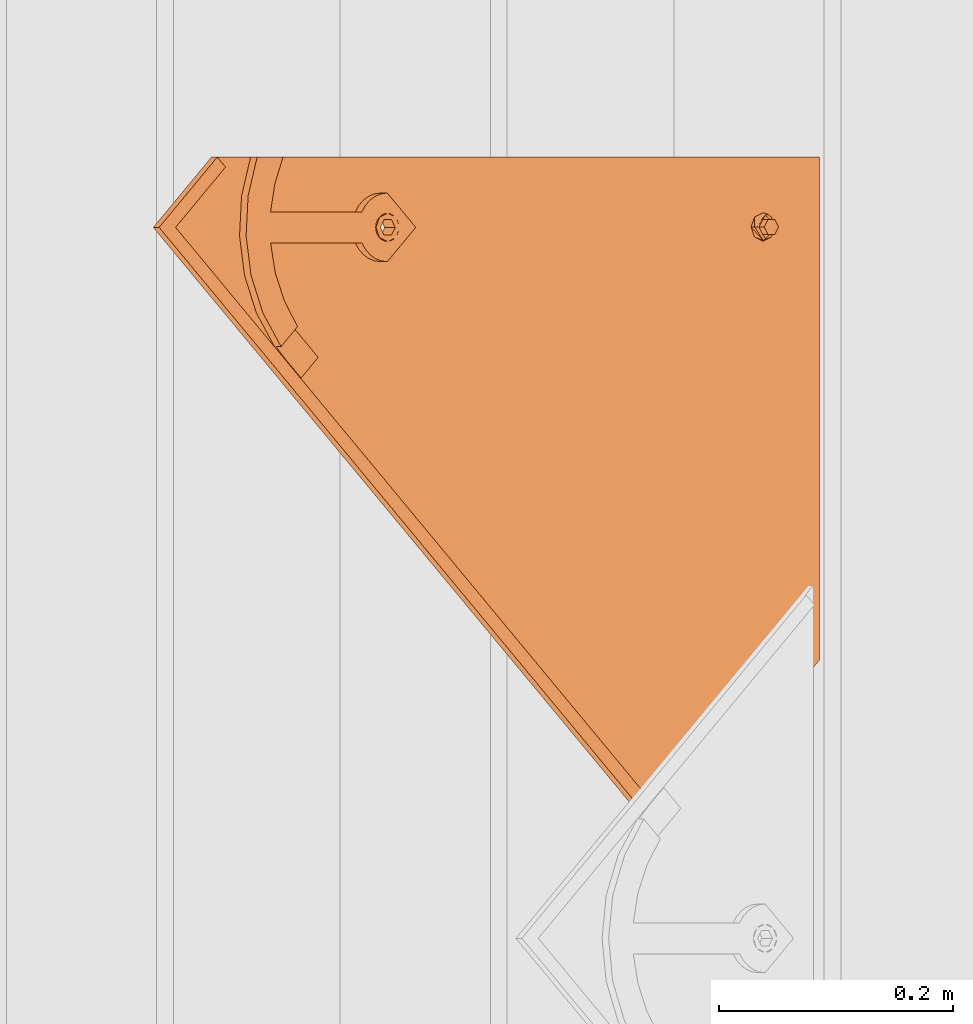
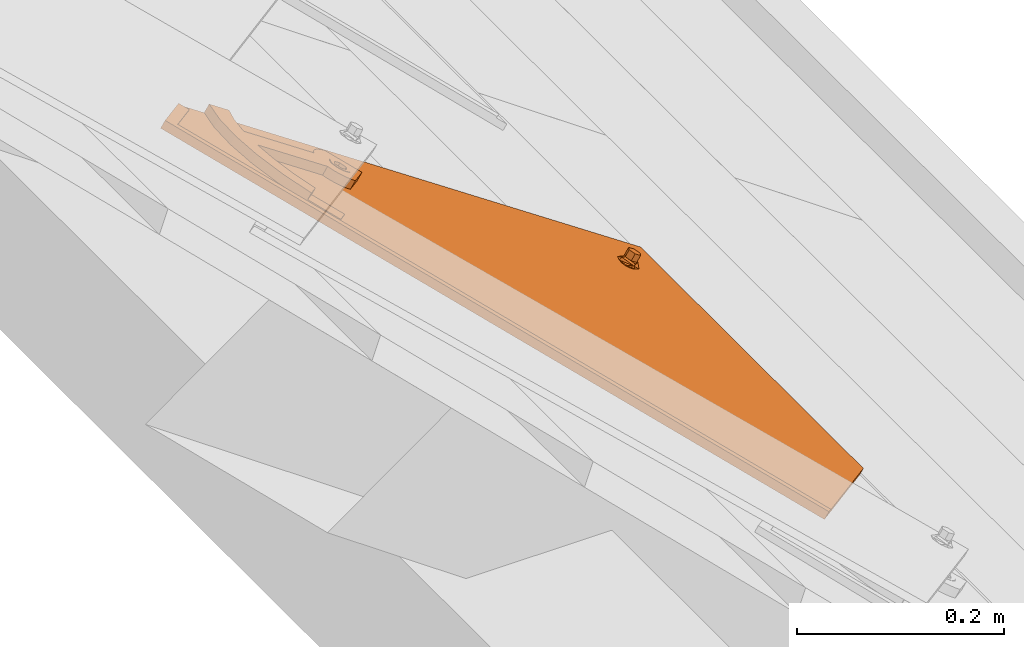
# One storey, part 119 of 133: 1 proxy.
"""IFC2X3 building model written with IfcOpenShell, lengths in millimetres."""

from ifc_helpers import new_model, entity, si_unit, converted_unit, derived_unit, direction, frame, origin, place, context, subcontext, project, spatial, faceted_brep, source, transform, mapped, material, material_list, type_object, type_shapes, element, save


model = new_model("IFC2X3")

# Units and contexts
model_context = context("Model", 3, precision=0.01, world=origin(), true_north=direction((6.12303176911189e-17, 1.0)))
body_context = subcontext(model_context, "Body", "Model", "MODEL_VIEW")
ifc_project = project(units=[si_unit("LENGTHUNIT", "METRE", prefix="MILLI"), si_unit("AREAUNIT", "SQUARE_METRE"), si_unit("VOLUMEUNIT", "CUBIC_METRE"), converted_unit("PLANEANGLEUNIT", "DEGREE", entity("IfcRatioMeasure", 0.0174532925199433), si_unit("PLANEANGLEUNIT", "RADIAN"), dimensions=[0, 0, 0, 0, 0, 0, 0]), si_unit("MASSUNIT", "GRAM", prefix="KILO"), derived_unit("MASSDENSITYUNIT", [(si_unit("MASSUNIT", "GRAM", prefix="KILO"), 1), (si_unit("LENGTHUNIT", "METRE"), -3)]), si_unit("TIMEUNIT", "SECOND"), si_unit("FREQUENCYUNIT", "HERTZ"), si_unit("THERMODYNAMICTEMPERATUREUNIT", "DEGREE_CELSIUS"), derived_unit("THERMALTRANSMITTANCEUNIT", [(si_unit("MASSUNIT", "GRAM", prefix="KILO"), 1), (si_unit("THERMODYNAMICTEMPERATUREUNIT", "KELVIN"), -1), (si_unit("TIMEUNIT", "SECOND"), -3)]), derived_unit("VOLUMETRICFLOWRATEUNIT", [(si_unit("LENGTHUNIT", "METRE"), 3), (si_unit("TIMEUNIT", "SECOND"), -1)]), si_unit("ELECTRICCURRENTUNIT", "AMPERE"), si_unit("ELECTRICVOLTAGEUNIT", "VOLT"), si_unit("POWERUNIT", "WATT"), si_unit("FORCEUNIT", "NEWTON", prefix="KILO"), si_unit("ILLUMINANCEUNIT", "LUX"), si_unit("LUMINOUSFLUXUNIT", "LUMEN"), si_unit("LUMINOUSINTENSITYUNIT", "CANDELA"), derived_unit("USERDEFINED", [(si_unit("MASSUNIT", "GRAM", prefix="KILO"), -1), (si_unit("LENGTHUNIT", "METRE"), -2), (si_unit("TIMEUNIT", "SECOND"), 3), (si_unit("LUMINOUSFLUXUNIT", "LUMEN"), 1)]), derived_unit("LINEARVELOCITYUNIT", [(si_unit("LENGTHUNIT", "METRE"), 1), (si_unit("TIMEUNIT", "SECOND"), -1)]), si_unit("PRESSUREUNIT", "PASCAL"), derived_unit("USERDEFINED", [(si_unit("LENGTHUNIT", "METRE"), -2), (si_unit("MASSUNIT", "GRAM", prefix="KILO"), 1), (si_unit("TIMEUNIT", "SECOND"), -2)])], contexts=[model_context])

# Site, building, storey
site_placement = place(None, origin())
site = spatial("IfcSite", under=ifc_project, at=site_placement, Name="Default", CompositionType="ELEMENT")
building_placement = place(site_placement, origin())
building = spatial("IfcBuilding", under=site, at=building_placement, CompositionType="ELEMENT")
storey_placement = place(building_placement, origin())
storey = spatial("IfcBuildingStorey", under=building, at=storey_placement, Name="Level 1", CompositionType="ELEMENT", Elevation=0.0)

# Proxy
ifc_material_1 = material(Name="Rubber - Sunstyle - Black")
ifc_material_2 = material(Name="Glass - Sunstyle - Tainted Black")
ifc_material_list_1 = material_list([ifc_material_1, ifc_material_2])
ifc_material_list_2 = material_list([ifc_material_1, ifc_material_2])
building_element_proxy_type = type_object("IfcBuildingElementProxyType", Name="Corner Bottom Big Right - Black", PredefinedType="NOTDEFINED", material=ifc_material_list_2)
shared_shape = source(origin(), body_context, "Body", "Brep", [
    faceted_brep([(0.270009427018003, -2.025866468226, -4.01619789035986), (-5.50419340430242, -5.35913660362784, -3.96037390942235), (-5.50419340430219, -4.99082751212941, 18.0314954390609), (0.270009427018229, -1.65755737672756, 17.9756714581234), (-5.50419340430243, -12.0256768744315, -3.84872594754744), (-5.5041934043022, -11.6573677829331, 18.1431434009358), (0.270009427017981, -15.3589470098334, -3.79290196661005), (0.270009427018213, -14.990637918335, 18.1989673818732), (6.04421225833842, -12.0256768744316, -3.84872594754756), (6.04421225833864, -11.6573677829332, 18.1431434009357), (6.04421225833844, -5.35913660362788, -3.96037390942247), (6.04421225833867, -4.99082751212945, 18.0314954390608), (-8.3336947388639, -16.9265954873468, 18.2313898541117), (0.27000942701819, -20.4898667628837, 18.2910657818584), (-11.8974656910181, -8.32409764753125, 18.0873194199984), (-8.33369473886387, 0.278400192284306, 17.9432489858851), (0.270009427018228, 3.84167146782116, 17.8835730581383), (8.87371359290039, 0.278400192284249, 17.9432489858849), (12.4374845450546, -8.32409764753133, 18.0873194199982), (8.87371359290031, -16.9265954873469, 18.2313898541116), (-11.1602134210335, -6.95050198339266, 20.4858706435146), (-9.50050407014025, -8.25322861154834, 22.3189355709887), (0.270009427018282, -0.940007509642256, 22.9603444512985), (0.27000942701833, 0.300490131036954, 22.3799978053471), (0.270009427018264, 2.4580409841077, 21.3706227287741), (-6.05323627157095, -4.59022324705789, 23.0214764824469), (-6.05323627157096, -11.8906547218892, 23.1437405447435), (0.270009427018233, -18.990246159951, 21.7298281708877), (0.270009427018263, -15.5408704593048, 23.2048725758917), (11.2551842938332, -12.0411541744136, 20.3827540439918), (10.3938597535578, -8.25726753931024, 22.077768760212), (6.59325512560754, -4.59022324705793, 23.0214764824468), (6.5932551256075, -11.8906547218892, 23.1437405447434), (-6.05323627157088, -11.7566262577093, 31.1466287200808), (0.270009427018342, -15.4068419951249, 31.207760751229), (0.270009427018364, -8.10641052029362, 31.0854966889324), (-6.05323627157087, -4.456194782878, 31.0243646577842), (6.59325512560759, -11.7566262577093, 31.1466287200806), (6.59325512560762, -4.45619478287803, 31.024364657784), (0.270009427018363, -0.805979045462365, 30.9632326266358), (0.270009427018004, -8.69240673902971, -3.90454992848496)], [[[0, 1, 2, 3]], [[1, 4, 5, 2]], [[4, 6, 7, 5]], [[6, 8, 9, 7]], [[8, 10, 11, 9]], [[10, 0, 3, 11]], [[12, 7, 13]], [[7, 12, 5]], [[14, 5, 12]], [[5, 14, 2]], [[15, 2, 14]], [[3, 2, 15]], [[15, 16, 3]], [[16, 17, 3]], [[11, 3, 17]], [[11, 17, 18]], [[9, 11, 18]], [[18, 19, 9]], [[7, 9, 19]], [[19, 13, 7]], [[15, 20, 16]], [[21, 22, 23, 24]], [[22, 21, 25]], [[20, 14, 12]], [[15, 14, 20]], [[25, 21, 26]], [[20, 24, 16]], [[12, 13, 27]], [[12, 27, 20]], [[21, 28, 26]], [[21, 27, 28]], [[20, 21, 24]], [[20, 27, 21]], [[19, 29, 13]], [[30, 23, 31]], [[30, 28, 27]], [[24, 23, 30]], [[29, 27, 13]], [[19, 18, 29]], [[29, 30, 27]], [[29, 17, 24]], [[24, 17, 16]], [[31, 32, 30]], [[23, 22, 31]], [[28, 30, 32]], [[29, 24, 30]], [[29, 18, 17]], [[33, 34, 35]], [[35, 36, 33]], [[34, 37, 35]], [[38, 35, 37]], [[35, 38, 39]], [[35, 39, 36]], [[40, 6, 4]], [[4, 1, 40]], [[1, 0, 40]], [[40, 8, 6]], [[0, 10, 40]], [[8, 40, 10]], [[22, 25, 36, 39]], [[25, 26, 33, 36]], [[26, 28, 34, 33]], [[28, 32, 37, 34]], [[32, 31, 38, 37]], [[31, 22, 39, 38]]]),
    faceted_brep([(-518.247351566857, 79.9143812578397, 14.9652572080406), (-518.247351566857, 79.9394990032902, 16.4650468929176), (-526.732038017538, 88.4241854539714, 16.3229495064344), (-526.732038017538, 88.399067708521, 14.8231598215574), (-0.00032251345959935, 614.98308737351, 6.00418773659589), (60.1037538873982, 554.895864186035, 7.01049921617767), (51.6190674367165, 546.411177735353, 7.15259660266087), (-0.000322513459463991, 598.016093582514, 6.28834266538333), (-0.000322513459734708, 615.00820511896, 7.50397742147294), (-0.000322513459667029, 598.041211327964, 7.78813235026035), (51.6190674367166, 546.436295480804, 8.65238628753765), (60.1037538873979, 554.920981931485, 8.51028890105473)], [[[0, 1, 2, 3]], [[0, 3, 4, 5, 6, 7]], [[3, 2, 8, 4]], [[2, 1, 9, 10, 11, 8]], [[1, 0, 7, 9]], [[6, 5, 11, 10]], [[4, 8, 11, 5]], [[9, 7, 6, 10]]]),
    faceted_brep([(0.0, 372.774440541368, 20.3195200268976), (0.0, 377.273809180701, 20.2441667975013), (-8.60370416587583, 376.337711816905, 20.2598440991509), (8.60370416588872, 376.337711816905, 20.2598440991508), (6.64022859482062, 381.107009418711, 20.1799702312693), (12.1674751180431, 384.940209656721, 20.1157736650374), (6.64022859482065, 388.773409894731, 20.0515770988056), (8.6037041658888, 393.542707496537, 19.9717032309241), (0.0, 392.606610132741, 19.9873805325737), (0.0, 397.105978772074, 19.9120273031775), (-8.60370416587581, 393.542707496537, 19.9717032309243), (-6.64022859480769, 388.773409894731, 20.0515770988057), (-12.1674751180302, 384.940209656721, 20.1157736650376), (-6.6402285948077, 381.107009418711, 20.1799702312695), (-6.6402282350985, 388.505487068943, 4.05382046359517), (0.0, 392.338687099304, 3.98962390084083), (-6.64022823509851, 380.839087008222, 4.18221358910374), (0.0, 377.005886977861, 4.24641015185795), (6.64022823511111, 380.839087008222, 4.1822135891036), (6.64022823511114, 388.505487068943, 4.05382046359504), (-8.603704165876, 376.069789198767, 4.26208746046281), (0.0, 372.50651792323, 4.32176338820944), (-12.1674751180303, 384.672287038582, 4.11801702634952), (-8.60370416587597, 393.274784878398, 3.97394659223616), (0.0, 396.838056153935, 3.91427066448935), (8.60370416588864, 393.274784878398, 3.97394659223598), (12.1674751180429, 384.672287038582, 4.11801702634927), (8.60370416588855, 376.069789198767, 4.26208746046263)], [[[0, 1, 2]], [[1, 0, 3]], [[3, 4, 1]], [[4, 3, 5]], [[6, 4, 5]], [[5, 7, 6]], [[7, 8, 6]], [[8, 7, 9]], [[8, 9, 10]], [[10, 11, 8]], [[12, 11, 10]], [[2, 13, 12]], [[12, 13, 11]], [[13, 2, 1]], [[8, 11, 14, 15]], [[11, 13, 16, 14]], [[13, 1, 17, 16]], [[1, 4, 18, 17]], [[4, 6, 19, 18]], [[6, 8, 15, 19]], [[20, 17, 21]], [[17, 20, 16]], [[22, 16, 20]], [[14, 16, 22]], [[23, 14, 22]], [[15, 14, 23]], [[23, 24, 15]], [[24, 25, 15]], [[19, 15, 25]], [[19, 25, 26]], [[26, 18, 19]], [[26, 27, 18]], [[17, 18, 27]], [[27, 21, 17]], [[24, 23, 10, 9]], [[10, 23, 22, 12]], [[20, 21, 0, 2]], [[20, 2, 12, 22]], [[21, 27, 3, 0]], [[3, 27, 26, 5]], [[25, 24, 9, 7]], [[25, 7, 5, 26]]]),
    faceted_brep([(-10.3923048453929, 390.78484910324, 9.75895037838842), (-8.48528137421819, 393.269782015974, 9.7173339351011), (-0.00032251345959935, 614.983087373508, 6.0041877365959), (-11.5911099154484, 387.891083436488, 9.8074137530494), (-6.0, 395.176538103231, 9.68540051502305), (-3.10582854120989, 396.37517508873, 9.6653263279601), (60.1037538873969, 554.895864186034, 7.01049921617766), (0.0, 396.784007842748, 9.65847939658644), (3.1058285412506, 396.37517508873, 9.6653263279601), (6.0, 395.176538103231, 9.68540051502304), (8.48528137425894, 393.269782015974, 9.7173339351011), (10.3923048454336, 390.784849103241, 9.75895037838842), (11.5911099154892, 387.891083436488, 9.8074137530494), (12.0, 384.785690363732, 9.8594213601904), (11.5911099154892, 381.680297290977, 9.9114289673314), (60.103753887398, -67.933460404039, 17.4413406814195), (10.3923048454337, 378.786531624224, 9.95989234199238), (6.58173564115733, -3.94243384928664, 16.369650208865), (8.48528137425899, 376.301598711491, 10.0015087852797), (5.31038666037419, -2.28581190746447, 16.3419059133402), (6.0, 374.394842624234, 10.0334422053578), (3.65353241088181, -1.01464118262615, 16.3206169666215), (3.10582854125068, 373.196205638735, 10.0535163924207), (1.72408477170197, -0.215549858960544, 16.3072341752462), (0.0, 372.787372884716, 10.0603633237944), (-0.346467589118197, 0.0570053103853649, 16.3026695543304), (-2.41701994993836, -0.215549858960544, 16.3072341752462), (-3.10582854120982, 373.196205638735, 10.0535163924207), (-4.34646758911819, -1.01464118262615, 16.3206169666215), (-6.0, 374.394842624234, 10.0334422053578), (-6.00332183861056, -2.28581190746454, 16.3419059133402), (-8.48528137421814, 376.301598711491, 10.0015087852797), (-370.355661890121, -67.9334604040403, 17.4413406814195), (-10.3923048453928, 378.786531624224, 9.95989234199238), (-526.732038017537, 88.3990677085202, 14.8231598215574), (-11.5911099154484, 381.680297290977, 9.9114289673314), (-12.0, 384.785690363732, 9.8594213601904), (-7.27467081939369, -3.94243384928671, 16.369650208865), (-8.07387419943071, -5.87161096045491, 16.4019591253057), (-8.34646758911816, -7.94187300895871, 16.4366308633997), (-8.0738741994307, -10.0121350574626, 16.4713026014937), (-7.27467081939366, -11.9413121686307, 16.5036115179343), (-6.00332183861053, -13.5979341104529, 16.5313558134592), (-4.34646758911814, -14.8691048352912, 16.5526447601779), (-2.41701994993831, -15.6681961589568, 16.5660275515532), (7.38093902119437, -5.87161096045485, 16.4019591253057), (7.65353241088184, -7.94187300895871, 16.4366308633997), (7.38093902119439, -10.0121350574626, 16.4713026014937), (6.58173564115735, -11.9413121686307, 16.5036115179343), (5.31038666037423, -13.5979341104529, 16.5313558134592), (3.65353241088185, -14.8691048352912, 16.5526447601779), (1.72408477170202, -15.6681961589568, 16.5660275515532), (-0.346467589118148, -15.9407513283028, 16.570592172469), (-370.355661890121, -68.0590491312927, 9.94239225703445), (-8.0738741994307, -10.1377237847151, 8.97235417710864), (-7.27467081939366, -12.0669008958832, 9.00466309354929), (-8.34646758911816, -8.06746173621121, 8.93768243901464), (-6.00332183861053, -13.7235228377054, 9.03240738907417), (-4.34646758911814, -14.9946935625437, 9.05369633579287), (60.103753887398, -68.0590491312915, 9.94239225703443), (-8.07387419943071, -5.99719968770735, 8.90301070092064), (-7.27467081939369, -4.06802257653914, 8.87070178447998), (-6.00332183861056, -2.41140063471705, 8.8429574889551), (-8.48528137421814, 376.176009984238, 2.50256036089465), (-10.3923048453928, 378.660942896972, 2.46094391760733), (-526.732038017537, 88.2734789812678, 7.32421139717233), (-11.5911099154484, 381.554708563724, 2.41248054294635), (-12.0, 384.66010163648, 2.36047293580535), (-11.5911099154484, 387.765494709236, 2.30846532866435), (-0.00032251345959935, 614.857498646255, -1.49476068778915), (-10.3923048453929, 390.659260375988, 2.26000195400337), (-8.48528137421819, 393.144193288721, 2.21838551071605), (-6.0, 395.050949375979, 2.18645209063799), (-3.10582854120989, 396.249586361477, 2.16637790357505), (60.1037538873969, 554.770275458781, -0.488449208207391), (0.0, 396.658419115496, 2.15953097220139), (3.1058285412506, 396.249586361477, 2.16637790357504), (6.0, 395.050949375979, 2.18645209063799), (8.48528137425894, 393.144193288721, 2.21838551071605), (10.3923048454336, 390.659260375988, 2.26000195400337), (11.5911099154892, 387.765494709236, 2.30846532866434), (12.0, 384.66010163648, 2.36047293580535), (11.5911099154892, 381.554708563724, 2.41248054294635), (-2.41701994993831, -15.7937848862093, 9.06707912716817), (-0.346467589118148, -16.0663400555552, 9.07164374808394), (1.72408477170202, -15.7937848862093, 9.06707912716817), (3.65353241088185, -14.9946935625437, 9.05369633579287), (5.31038666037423, -13.7235228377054, 9.03240738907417), (6.58173564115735, -12.0669008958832, 9.00466309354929), (7.38093902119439, -10.1377237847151, 8.97235417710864), (7.65353241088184, -8.06746173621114, 8.93768243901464), (7.38093902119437, -5.99719968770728, 8.90301070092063), (6.58173564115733, -4.06802257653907, 8.87070178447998), (10.3923048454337, 378.660942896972, 2.46094391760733), (-6.0, 374.269253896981, 2.5344937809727), (-4.34646758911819, -1.14022990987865, 8.8216685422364), (-3.10582854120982, 373.070616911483, 2.55456796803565), (-2.41701994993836, -0.341138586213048, 8.8082857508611), (0.0, 372.661784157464, 2.56141489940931), (-0.346467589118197, -0.0685834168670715, 8.80372112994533), (1.72408477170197, -0.341138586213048, 8.8082857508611), (3.10582854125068, 373.070616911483, 2.55456796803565), (3.65353241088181, -1.14022990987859, 8.8216685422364), (6.0, 374.269253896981, 2.5344937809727), (5.31038666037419, -2.41140063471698, 8.8429574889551), (8.48528137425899, 376.176009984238, 2.50256036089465)], [[[0, 1, 2]], [[3, 0, 2]], [[4, 2, 1]], [[2, 4, 5]], [[6, 2, 5]], [[7, 6, 5]], [[7, 8, 6]], [[8, 9, 6]], [[10, 6, 9]], [[6, 10, 11]], [[6, 11, 12]], [[12, 13, 6]], [[13, 14, 6]], [[6, 14, 15]], [[14, 16, 15]], [[17, 15, 16]], [[18, 17, 16]], [[17, 18, 19]], [[18, 20, 19]], [[21, 19, 20]], [[20, 22, 21]], [[23, 21, 22]], [[24, 23, 22]], [[23, 24, 25]], [[26, 25, 24]], [[24, 27, 26]], [[26, 27, 28]], [[29, 28, 27]], [[28, 29, 30]], [[29, 31, 30]], [[32, 30, 31]], [[33, 32, 31]], [[33, 34, 32]], [[33, 35, 34]], [[35, 36, 34]], [[36, 3, 34]], [[3, 2, 34]], [[30, 32, 37]], [[37, 32, 38]], [[32, 39, 38]], [[39, 32, 40]], [[40, 32, 41]], [[42, 41, 32]], [[42, 32, 43]], [[43, 32, 15]], [[15, 44, 43]], [[17, 45, 15]], [[45, 46, 15]], [[47, 15, 46]], [[47, 48, 15]], [[49, 15, 48]], [[15, 49, 50]], [[50, 51, 15]], [[51, 52, 15]], [[52, 44, 15]], [[53, 54, 55]], [[54, 53, 56]], [[53, 55, 57]], [[57, 58, 53]], [[53, 58, 59]], [[60, 56, 53]], [[61, 60, 53]], [[61, 53, 62]], [[63, 62, 53]], [[64, 63, 53]], [[65, 64, 53]], [[65, 66, 64]], [[66, 65, 67]], [[67, 65, 68]], [[65, 69, 68]], [[70, 68, 69]], [[71, 70, 69]], [[72, 71, 69]], [[69, 73, 72]], [[74, 73, 69]], [[75, 73, 74]], [[76, 75, 74]], [[77, 76, 74]], [[74, 78, 77]], [[78, 74, 79]], [[80, 79, 74]], [[80, 74, 81]], [[82, 81, 74]], [[82, 74, 59]], [[59, 58, 83]], [[84, 59, 83]], [[84, 85, 59]], [[85, 86, 59]], [[87, 59, 86]], [[59, 87, 88]], [[59, 88, 89]], [[89, 90, 59]], [[90, 91, 59]], [[91, 92, 59]], [[92, 93, 59]], [[93, 82, 59]], [[94, 62, 63]], [[94, 95, 62]], [[96, 95, 94]], [[97, 95, 96]], [[96, 98, 97]], [[99, 97, 98]], [[99, 98, 100]], [[101, 100, 98]], [[102, 100, 101]], [[103, 102, 101]], [[104, 102, 103]], [[103, 105, 104]], [[105, 92, 104]], [[105, 93, 92]], [[36, 67, 68, 3]], [[3, 68, 70, 0]], [[4, 1, 71, 72]], [[70, 71, 1, 0]], [[5, 4, 72, 73]], [[75, 7, 5, 73]], [[8, 76, 77, 9]], [[9, 77, 78, 10]], [[12, 11, 79, 80]], [[78, 79, 11, 10]], [[13, 12, 80, 81]], [[8, 7, 75, 76]], [[13, 81, 82, 14]], [[14, 82, 93, 16]], [[20, 18, 105, 103]], [[93, 105, 18, 16]], [[22, 20, 103, 101]], [[98, 24, 22, 101]], [[27, 96, 94, 29]], [[29, 94, 63, 31]], [[35, 33, 64, 66]], [[63, 64, 33, 31]], [[36, 35, 66, 67]], [[27, 24, 98, 96]], [[34, 2, 69, 65]], [[32, 34, 65, 53]], [[15, 32, 53, 59]], [[6, 15, 59, 74]], [[2, 6, 74, 69]], [[39, 56, 60, 38]], [[38, 60, 61, 37]], [[28, 30, 62, 95]], [[62, 30, 37, 61]], [[26, 28, 95, 97]], [[26, 97, 99, 25]], [[25, 99, 100, 23]], [[23, 100, 102, 21]], [[17, 19, 104, 92]], [[104, 19, 21, 102]], [[45, 17, 92, 91]], [[45, 91, 90, 46]], [[46, 90, 89, 47]], [[47, 89, 88, 48]], [[50, 49, 87, 86]], [[87, 49, 48, 88]], [[51, 50, 86, 85]], [[51, 85, 84, 52]], [[52, 84, 83, 44]], [[44, 83, 58, 43]], [[41, 42, 57, 55]], [[57, 42, 43, 58]], [[40, 41, 55, 54]], [[40, 54, 56, 39]]]),
    faceted_brep([(-114.2509690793, 483.839345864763, 10.7008696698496), (-128.946713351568, 469.147722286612, 10.9469178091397), (-111.269043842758, 451.472531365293, 11.2429332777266), (-84.944396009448, 477.793488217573, 10.8021227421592), (-102.027571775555, 494.874268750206, 10.5160621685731), (-108.279973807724, 489.512620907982, 10.6058564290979), (0.0, 355.735286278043, 10.3459433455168), (0.0, 373.122276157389, 10.0547545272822), (3.10582854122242, 373.531108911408, 10.0479075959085), (-3.10582854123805, 373.531108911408, 10.0479075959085), (6.0, 374.729745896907, 10.0278334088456), (8.48528137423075, 376.636501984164, 9.99589998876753), (29.3894280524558, 385.120593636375, 9.85381256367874), (-6.0, 374.729745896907, 10.0278334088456), (-8.4852813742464, 376.636501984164, 9.99589998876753), (-29.3894280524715, 385.120593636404, 9.85381256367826), (-10.3923048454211, 379.121434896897, 9.95428354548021), (-11.5911099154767, 382.01520056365, 9.90582017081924), (-12.0, 385.120593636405, 9.85381256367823), (-28.6795527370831, 391.540108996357, 9.74630165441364), (-11.5911099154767, 388.225986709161, 9.80180495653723), (-26.5842195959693, 397.649509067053, 9.64398440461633), (-10.3923048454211, 391.119752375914, 9.75334158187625), (-23.204650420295, 403.153659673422, 9.55180357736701), (-8.48528137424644, 393.604685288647, 9.71172513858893), (-18.704106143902, 407.786665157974, 9.47421226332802), (-6.0, 395.511441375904, 9.67979171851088), (-13.3000000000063, 411.324713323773, 9.41495875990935), (-3.10582854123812, 396.710078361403, 9.65971753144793), (0.0, 397.118911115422, 9.65287060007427), (13.2999999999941, 411.324713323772, 9.41495875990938), (-13.3000000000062, 505.643535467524, 7.83535317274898), (13.2999999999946, 505.643535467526, 7.83535317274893), (-7.21723712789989, 530.953901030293, 7.41146752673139), (-41.1626974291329, 525.784666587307, 7.49803934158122), (-38.7697427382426, 500.828655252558, 7.91599043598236), (-73.2491712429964, 513.560140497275, 7.70276973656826), (-62.9243331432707, 491.42502143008, 8.07347790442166), (-84.9431983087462, 477.752822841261, 8.30245321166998), (-102.027571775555, 494.832405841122, 8.01641269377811), (-108.279973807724, 489.470757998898, 8.10620695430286), (-114.2509690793, 483.79748295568, 8.20122019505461), (-111.269043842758, 451.430668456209, 8.74328380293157), (-128.946713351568, 469.105859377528, 8.44726833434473), (27.0541674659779, 528.834391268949, 7.44696404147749), (37.2599857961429, 501.252149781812, 7.90889795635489), (60.1037538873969, 519.521858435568, 7.60292579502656), (60.1037538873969, 492.795625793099, 8.05052369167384), (3.10582854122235, 396.710078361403, 9.65971753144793), (6.0, 395.511441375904, 9.67979171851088), (18.7041061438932, 407.786665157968, 9.47421226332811), (8.48528137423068, 393.604685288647, 9.71172513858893), (23.2046504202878, 403.153659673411, 9.55180357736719), (10.3923048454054, 391.119752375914, 9.75334158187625), (26.5842195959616, 397.649509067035, 9.64398440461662), (11.591109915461, 388.225986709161, 9.80180495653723), (28.6795527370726, 391.540108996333, 9.74630165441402), (12.0, 385.120593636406, 9.85381256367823), (11.591109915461, 382.01520056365, 9.90582017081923), (10.3923048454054, 379.121434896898, 9.95428354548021), (-38.7697427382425, 500.996106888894, 17.9145883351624), (-41.1626974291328, 525.952118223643, 17.4966372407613), (-73.2491712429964, 513.727592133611, 17.7013676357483), (-62.9243331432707, 491.592473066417, 18.0720758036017), (-13.3000000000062, 505.810987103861, 17.833951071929), (-7.21723712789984, 531.121352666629, 17.4100654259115), (13.2999999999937, 505.810987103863, 17.833951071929), (-13.3000000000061, 411.49216496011, 19.4135566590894), (13.2999999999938, 411.492164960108, 19.4135566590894), (0.0, 397.286362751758, 19.6514684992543), (-3.10582854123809, 396.877529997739, 19.658315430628), (-6.0, 395.678893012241, 19.6783896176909), (-18.7041061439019, 407.954116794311, 19.4728101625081), (-8.48528137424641, 393.772136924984, 19.710323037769), (-23.2046504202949, 403.321111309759, 19.5504014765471), (-10.3923048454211, 391.28720401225, 19.7519394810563), (-26.5842195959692, 397.816960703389, 19.6425823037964), (-11.5911099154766, 388.393438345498, 19.8004028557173), (-28.6795527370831, 391.707560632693, 19.7448995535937), (-12.0, 385.288045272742, 19.8524104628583), (-29.3894280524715, 385.28804527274, 19.8524104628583), (-11.5911099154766, 382.182652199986, 19.9044180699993), (-10.3923048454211, 379.288886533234, 19.9528814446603), (-8.48528137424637, 376.803953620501, 19.9944978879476), (0.0, 355.902737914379, 20.3445412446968), (-6.0, 374.897197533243, 20.0264313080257), (-3.10582854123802, 373.698560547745, 20.0465054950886), (0.0, 373.289727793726, 20.0533524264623), (3.10582854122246, 373.698560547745, 20.0465054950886), (6.0, 374.897197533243, 20.0264313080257), (8.48528137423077, 376.803953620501, 19.9944978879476), (29.3894280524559, 385.288045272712, 19.8524104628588), (10.3923048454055, 379.288886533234, 19.9528814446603), (11.591109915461, 382.182652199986, 19.9044180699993), (12.0, 385.288045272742, 19.8524104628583), (28.6795527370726, 391.70756063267, 19.7448995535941), (11.591109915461, 388.393438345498, 19.8004028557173), (26.5842195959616, 397.816960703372, 19.6425823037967), (10.3923048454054, 391.28720401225, 19.7519394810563), (23.2046504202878, 403.321111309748, 19.5504014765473), (8.48528137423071, 393.772136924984, 19.710323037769), (18.7041061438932, 407.954116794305, 19.4728101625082), (6.0, 395.678893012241, 19.6783896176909), (3.10582854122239, 396.877529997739, 19.658315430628), (27.0541674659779, 529.001842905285, 17.4455619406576), (37.259985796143, 501.419601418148, 17.907495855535), (60.1037538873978, 519.689310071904, 17.6015236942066), (60.1037538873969, 492.963077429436, 18.0491215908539), (-84.9443960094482, 477.919076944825, 18.3010711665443), (-102.027571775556, 494.999857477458, 18.0150105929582)], [[[0, 1, 2, 3, 4, 5]], [[6, 7, 8]], [[7, 6, 9]], [[6, 8, 10]], [[10, 11, 6]], [[6, 11, 12]], [[13, 9, 6]], [[14, 13, 6]], [[14, 6, 15]], [[15, 16, 14]], [[16, 15, 17]], [[17, 15, 18]], [[19, 18, 15]], [[20, 18, 19]], [[19, 21, 20]], [[20, 21, 22]], [[23, 22, 21]], [[23, 24, 22]], [[23, 25, 24]], [[25, 26, 24]], [[26, 25, 27]], [[28, 26, 27]], [[27, 29, 28]], [[30, 29, 27]], [[30, 27, 31]], [[30, 31, 32]], [[31, 33, 32]], [[33, 31, 34]], [[35, 34, 31]], [[34, 35, 36]], [[37, 36, 35]], [[37, 38, 36]], [[36, 38, 39]], [[40, 39, 38]], [[40, 38, 41]], [[38, 42, 41]], [[42, 43, 41]], [[32, 33, 44]], [[44, 45, 32]], [[45, 44, 46]], [[46, 47, 45]], [[48, 29, 30]], [[30, 49, 48]], [[49, 30, 50]], [[50, 51, 49]], [[50, 52, 51]], [[51, 52, 53]], [[54, 53, 52]], [[54, 55, 53]], [[56, 55, 54]], [[57, 55, 56]], [[12, 57, 56]], [[58, 57, 12]], [[12, 11, 59]], [[58, 12, 59]], [[1, 0, 41, 43]], [[2, 1, 43, 42]], [[4, 39, 40, 5]], [[40, 41, 0, 5]], [[3, 2, 42, 38]], [[60, 61, 62]], [[63, 60, 62]], [[64, 61, 60]], [[61, 64, 65]], [[66, 65, 64]], [[66, 64, 67]], [[66, 67, 68]], [[68, 67, 69]], [[67, 70, 69]], [[71, 70, 67]], [[71, 67, 72]], [[72, 73, 71]], [[73, 72, 74]], [[73, 74, 75]], [[74, 76, 75]], [[75, 76, 77]], [[78, 77, 76]], [[78, 79, 77]], [[78, 80, 79]], [[79, 80, 81]], [[82, 81, 80]], [[83, 82, 80]], [[83, 80, 84]], [[85, 83, 84]], [[86, 85, 84]], [[87, 86, 84]], [[87, 84, 88]], [[89, 88, 84]], [[89, 84, 90]], [[91, 90, 84]], [[92, 90, 91]], [[91, 93, 92]], [[93, 91, 94]], [[95, 94, 91]], [[95, 96, 94]], [[95, 97, 96]], [[96, 97, 98]], [[99, 98, 97]], [[98, 99, 100]], [[100, 99, 101]], [[101, 68, 102]], [[100, 101, 102]], [[102, 68, 103]], [[103, 68, 69]], [[66, 104, 65]], [[105, 104, 66]], [[105, 106, 104]], [[106, 105, 107]], [[108, 63, 62]], [[62, 109, 108]], [[66, 68, 30, 32]], [[95, 91, 12, 56]], [[97, 95, 56, 54]], [[54, 52, 99, 97]], [[101, 99, 52, 50]], [[68, 101, 50, 30]], [[91, 84, 6, 12]], [[84, 80, 15, 6]], [[72, 67, 27, 25]], [[74, 72, 25, 23]], [[23, 21, 76, 74]], [[78, 76, 21, 19]], [[80, 78, 19, 15]], [[67, 64, 31, 27]], [[104, 106, 46, 44]], [[65, 104, 44, 33]], [[33, 34, 61, 65]], [[62, 61, 34, 36]], [[4, 109, 62, 36, 39]], [[79, 18, 20, 77]], [[77, 20, 22, 75]], [[71, 73, 24, 26]], [[22, 24, 73, 75]], [[70, 71, 26, 28]], [[29, 69, 70, 28]], [[103, 48, 49, 102]], [[102, 49, 51, 100]], [[96, 98, 53, 55]], [[51, 53, 98, 100]], [[94, 96, 55, 57]], [[103, 69, 29, 48]], [[94, 57, 58, 93]], [[93, 58, 59, 92]], [[89, 90, 11, 10]], [[59, 11, 90, 92]], [[88, 89, 10, 8]], [[7, 87, 88, 8]], [[86, 9, 13, 85]], [[85, 13, 14, 83]], [[81, 82, 16, 17]], [[14, 16, 82, 83]], [[79, 81, 17, 18]], [[86, 87, 7, 9]], [[108, 109, 4, 3]], [[32, 45, 105, 66]], [[47, 107, 105, 45]], [[3, 37, 63, 108]], [[3, 38, 37]], [[35, 31, 64, 60]], [[37, 35, 60, 63]], [[106, 107, 47, 46]]]),
])
type_shapes(building_element_proxy_type, [shared_shape])
proxy_placement = place(storey_placement, frame((4421.9502418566, 2650.11625599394, 579.232159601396), z_axis=(0.573576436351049, 0.0, 0.81915204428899), x_axis=(0.0, 1.0, 0.0)))
element("IfcBuildingElementProxy", 1, at=proxy_placement, inside=storey, type_object=building_element_proxy_type, material=ifc_material_list_1, Name="Roofing_Panels_SunStyle_Tile_Corner-Bottom-Big-Right:Corner Bottom Big Right - Black", ObjectType="Roofing_Panels_SunStyle_Tile_Corner-Bottom-Big-Right:Corner Bottom Big Right - Black", context=body_context, shape_type="MappedRepresentation", body=[
    mapped(shared_shape, transform((0.0, 0.0, 0.0), scale=1.0)),
])

save(model, "model.ifc")
